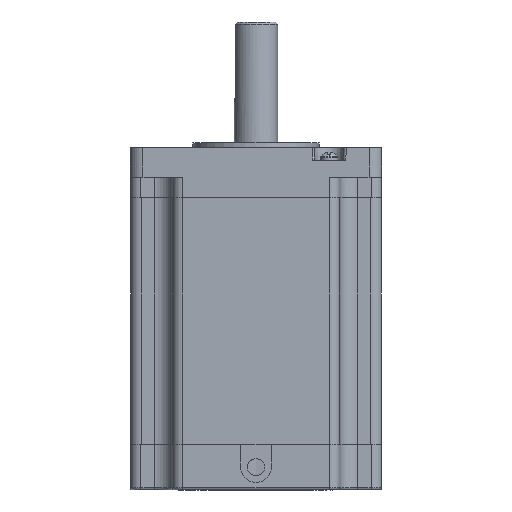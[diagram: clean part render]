
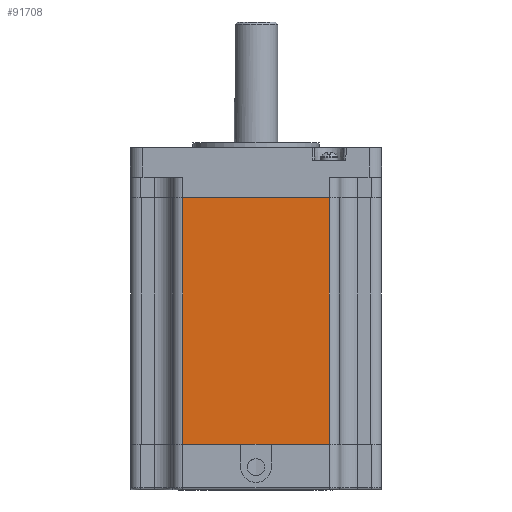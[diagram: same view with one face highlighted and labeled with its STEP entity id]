
A CAD part, front view. The second image highlights one B-rep face of the part: STEP entity #91708.
In plain terms, the highlighted planar face has unit normal (0, -1, 0).
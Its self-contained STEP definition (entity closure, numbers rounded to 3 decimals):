
#334 = CARTESIAN_POINT ( 'NONE',  ( -36.6, -54.95, 108. ) ) ;
#5073 = EDGE_CURVE ( 'NONE', #42156, #29784, #91258, .T. ) ;
#6347 = ORIENTED_EDGE ( 'NONE', *, *, #25233, .T. ) ;
#11671 = LINE ( 'NONE', #334, #89613 ) ;
#16370 = DIRECTION ( 'NONE',  ( 0., 0., 1. ) ) ;
#16549 = CARTESIAN_POINT ( 'NONE',  ( -36.6, -54.95, 0. ) ) ;
#19695 = EDGE_CURVE ( 'NONE', #59128, #29784, #11671, .T. ) ;
#19701 = LINE ( 'NONE', #54297, #57460 ) ;
#21076 = ORIENTED_EDGE ( 'NONE', *, *, #43799, .T. ) ;
#21362 = DIRECTION ( 'NONE',  ( 0., 1., 0. ) ) ;
#25233 = EDGE_CURVE ( 'NONE', #29468, #42156, #94894, .T. ) ;
#29468 = VERTEX_POINT ( 'NONE', #76835 ) ;
#29784 = VERTEX_POINT ( 'NONE', #43043 ) ;
#33365 = VECTOR ( 'NONE', #16370, 1000. ) ;
#33716 = CARTESIAN_POINT ( 'NONE',  ( -32., -54.95, 108. ) ) ;
#36169 = PLANE ( 'NONE',  #73305 ) ;
#38389 = CARTESIAN_POINT ( 'NONE',  ( 32., -54.95, 108. ) ) ;
#38898 = DIRECTION ( 'NONE',  ( 1., 0., 0. ) ) ;
#42156 = VERTEX_POINT ( 'NONE', #59851 ) ;
#43043 = CARTESIAN_POINT ( 'NONE',  ( 32., -54.95, 108. ) ) ;
#43799 = EDGE_CURVE ( 'NONE', #59128, #29468, #19701, .T. ) ;
#51675 = ORIENTED_EDGE ( 'NONE', *, *, #5073, .T. ) ;
#53394 = DIRECTION ( 'NONE',  ( 1., 0., 0. ) ) ;
#54297 = CARTESIAN_POINT ( 'NONE',  ( -32., -54.95, 108. ) ) ;
#57460 = VECTOR ( 'NONE', #61977, 1000. ) ;
#59128 = VERTEX_POINT ( 'NONE', #33716 ) ;
#59851 = CARTESIAN_POINT ( 'NONE',  ( 32., -54.95, 0. ) ) ;
#61977 = DIRECTION ( 'NONE',  ( 0., 0., -1. ) ) ;
#66641 = CARTESIAN_POINT ( 'NONE',  ( -36.6, -54.95, 108. ) ) ;
#71491 = EDGE_LOOP ( 'NONE', ( #92458, #21076, #6347, #51675 ) ) ;
#73305 = AXIS2_PLACEMENT_3D ( 'NONE', #66641, #21362, #74190 ) ;
#73621 = FACE_OUTER_BOUND ( 'NONE', #71491, .T. ) ;
#74190 = DIRECTION ( 'NONE',  ( 1., 0., 0. ) ) ;
#76835 = CARTESIAN_POINT ( 'NONE',  ( -32., -54.95, 0. ) ) ;
#89613 = VECTOR ( 'NONE', #53394, 1000. ) ;
#91258 = LINE ( 'NONE', #38389, #33365 ) ;
#91708 = ADVANCED_FACE ( 'NONE', ( #73621 ), #36169, .F. ) ;
#92458 = ORIENTED_EDGE ( 'NONE', *, *, #19695, .F. ) ;
#94894 = LINE ( 'NONE', #16549, #97254 ) ;
#97254 = VECTOR ( 'NONE', #38898, 1000. ) ;
